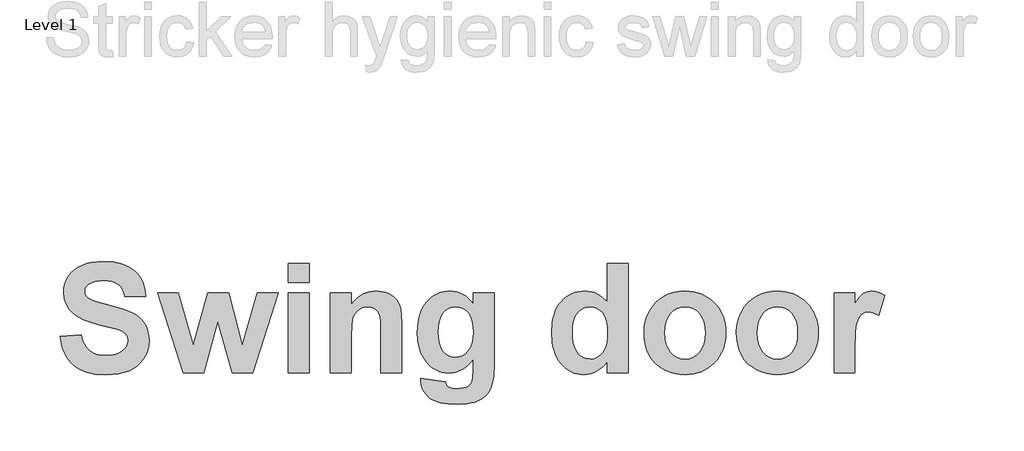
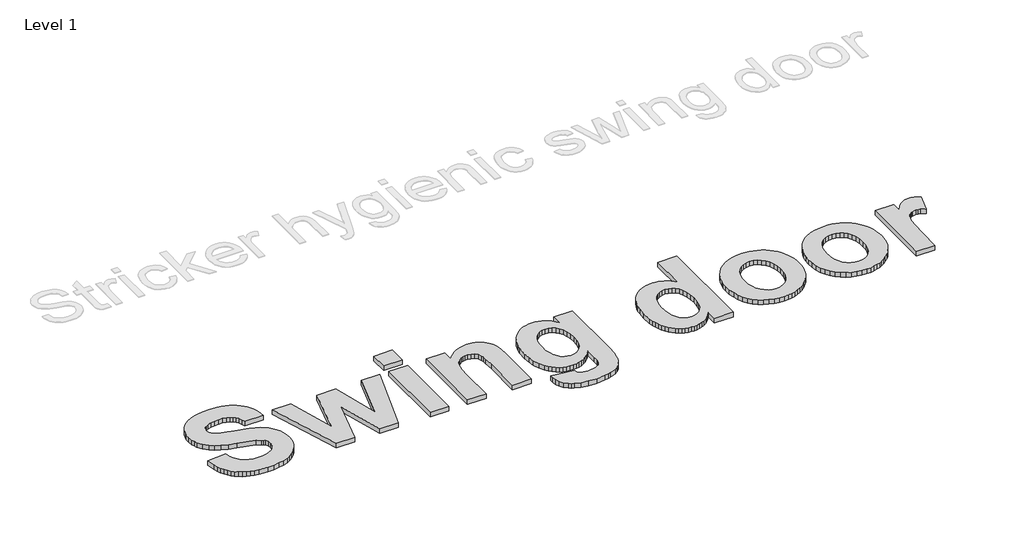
# One storey, part 19 of 20: 1 proxy.
"""IFC4 building model written with IfcOpenShell, lengths in millimetres."""

import ifcopenshell
import ifcopenshell.guid

model = None  # the IFC model being written
_history = None  # IfcOwnerHistory: only IFC2X3 demands one
_inside = {}  # id of a spatial element -> (the spatial element, [elements in it])
_under = {}  # id of a project, library or spatial element -> (it, [spatial elements below it])
_declared = {}  # id of a project -> (the project, [libraries it declares])
_typed = {}  # id of a type object -> (the type object, [elements of that type])
_made_of = {}  # id of a material, layer set ... -> (it, [elements and type objects made of it])


def new_model(schema):
    """Start an empty IFC model of exactly this schema.

    Asked for "IFC4X3", IfcOpenShell would pick the latest addendum, in which some entities
    have other attributes; the version numbers below select the first issue.
    IFC2X3 requires an IfcOwnerHistory on every rooted entity: one is made here for all.
    """
    global model, _history
    if schema == "IFC4X3":
        model = ifcopenshell.file(schema_version=(4, 3, 0, 0))
    else:
        model = ifcopenshell.file(schema=schema)
    _inside.clear()
    _under.clear()
    _declared.clear()
    _typed.clear()
    _made_of.clear()
    _history = None
    if model.schema == "IFC2X3":
        org = make("IfcOrganization", Name="unknown")
        user = make(
            "IfcPersonAndOrganization",
            ThePerson=make("IfcPerson", FamilyName="unknown"),
            TheOrganization=org,
        )
        app = make(
            "IfcApplication",
            ApplicationDeveloper=org,
            Version="unknown",
            ApplicationFullName="unknown",
            ApplicationIdentifier="unknown",
        )
        _history = make(
            "IfcOwnerHistory",
            OwningUser=user,
            OwningApplication=app,
            ChangeAction="ADDED",
            CreationDate=0,
        )
    return model


def make(cls, **values):
    """One entity of the class cls with the attributes given. An attribute that is None is left unset."""
    return model.create_entity(
        cls, **{name: value for name, value in values.items() if value is not None}
    )


def rooted(cls, **values):
    """An entity with a GlobalId (a new one), such as an element, a storey or a relation."""
    return make(cls, GlobalId=ifcopenshell.guid.new(), OwnerHistory=_history, **values)


def si_unit(unit_type, name, prefix=None):
    """IfcSIUnit, for example si_unit("LENGTHUNIT", "METRE", prefix="MILLI")."""
    return make("IfcSIUnit", UnitType=unit_type, Prefix=prefix, Name=name)


def assignment(units):
    """IfcUnitAssignment: the units of a project."""
    return None if units is None else make("IfcUnitAssignment", Units=units)


def point(xyz):
    """IfcCartesianPoint."""
    return None if xyz is None else make("IfcCartesianPoint", Coordinates=xyz)


def direction(xyz):
    """IfcDirection."""
    return None if xyz is None else make("IfcDirection", DirectionRatios=xyz)


def frame(location, z_axis=None, x_axis=None):
    """IfcAxis2Placement3D, a coordinate frame: its origin and axes. An axis left out is left unset."""
    return make(
        "IfcAxis2Placement3D",
        Location=point(location),
        Axis=direction(z_axis),
        RefDirection=direction(x_axis),
    )


def origin():
    """The frame at (0, 0, 0) with its axes left unset."""
    return frame((0.0, 0.0, 0.0))


def origin_with_axes():
    """The frame at (0, 0, 0) with the z axis (0, 0, 1) and the x axis (1, 0, 0) written out."""
    return frame((0.0, 0.0, 0.0), z_axis=(0.0, 0.0, 1.0), x_axis=(1.0, 0.0, 0.0))


def place(relative_to, where):
    """IfcLocalPlacement: puts the frame where relative to a parent placement (None: the world)."""
    return make(
        "IfcLocalPlacement", PlacementRelTo=relative_to, RelativePlacement=where
    )


def context(
    kind, dimensions, precision=None, world=None, true_north=None, identifier=None
):
    """IfcGeometricRepresentationContext, for example the 3D "Model" context."""
    return make(
        "IfcGeometricRepresentationContext",
        ContextIdentifier=identifier,
        ContextType=kind,
        CoordinateSpaceDimension=dimensions,
        Precision=precision,
        WorldCoordinateSystem=world,
        TrueNorth=true_north,
    )


def project(units=None, contexts=None):
    """IfcProject with its units and contexts."""
    return rooted(
        "IfcProject",
        Name="project",
        RepresentationContexts=contexts,
        UnitsInContext=assignment(units),
    )


def spatial(cls, under=None, at=None, **own):
    """A site, building, storey or space (cls), placed at a placement, below another one or the project."""
    s = rooted(cls, ObjectPlacement=at, **own)
    if under is not None:
        _under.setdefault(under.id(), (under, []))[1].append(s)
    return s


def polyline(points):
    """IfcPolyline through the points."""
    return make("IfcPolyline", Points=[point(p) for p in points])


def outline(outer, holes=None, kind="AREA"):
    """IfcArbitraryClosedProfileDef: a profile drawn as a closed curve; with holes, ...WithVoids."""
    if holes is None:
        return make("IfcArbitraryClosedProfileDef", ProfileType=kind, OuterCurve=outer)
    return make(
        "IfcArbitraryProfileDefWithVoids",
        ProfileType=kind,
        OuterCurve=outer,
        InnerCurves=holes,
    )


def extrude(swept, where, along, depth):
    """IfcExtrudedAreaSolid: the profile swept, set in the frame where, extruded along a direction by depth."""
    return make(
        "IfcExtrudedAreaSolid",
        SweptArea=swept,
        Position=where,
        ExtrudedDirection=direction(along),
        Depth=depth,
    )


def shape(context_of_items, identifier, shape_type, items):
    """IfcShapeRepresentation: the items that make up one representation, for example the "Body"."""
    return make(
        "IfcShapeRepresentation",
        ContextOfItems=context_of_items,
        RepresentationIdentifier=identifier,
        RepresentationType=shape_type,
        Items=items,
    )


def made_of(thing, what):
    """Note that an element or type object is made of a material, layer set ...; save() writes the relation."""
    if what is not None:
        _made_of.setdefault(what.id(), (what, []))[1].append(thing)
    return thing


def element(
    cls,
    number,
    at=None,
    inside=None,
    cuts=None,
    type_object=None,
    material=None,
    context=None,
    identifier="Body",
    shape_type=None,
    held_by="IfcProductDefinitionShape",
    body=None,
    shapes=None,
    **own,
):
    """One element of the class cls, such as IfcWall. Its Tag is "e" and its number.

    at: its placement. inside: the storey or other place that contains it. cuts: it is an
    opening in that element (IfcRelVoidsElement). A single representation is given by context,
    identifier, shape_type and body (its items); several are given by shapes. held_by: the class
    of the entity that holds the representations. save() writes the other relations.
    """
    e = rooted(cls, Tag="e%d" % number, ObjectPlacement=at, **own)
    if body is not None:
        shapes = [shape(context, identifier, shape_type, body)]
    if shapes is not None:
        e.Representation = make(held_by, Representations=shapes)
    if inside is not None:
        _inside.setdefault(inside.id(), (inside, []))[1].append(e)
    if cuts is not None:
        rooted(
            "IfcRelVoidsElement", RelatingBuildingElement=cuts, RelatedOpeningElement=e
        )
    if type_object is not None:
        _typed.setdefault(type_object.id(), (type_object, []))[1].append(e)
    return made_of(e, material)


def aggregate(whole, parts):
    """IfcRelAggregates: a whole, such as a stair, and the parts it consists of."""
    return rooted("IfcRelAggregates", RelatingObject=whole, RelatedObjects=parts)


def save(model, path):
    """Write the relations noted so far, then the file.

    IfcRelAggregates (storeys below a building ...), IfcRelContainedInSpatialStructure (elements
    in a storey), IfcRelDefinesByType, IfcRelAssociatesMaterial and IfcRelDeclares: one each for
    every whole, place, type object, material and project.
    """
    for whole, parts in _under.values():
        aggregate(whole, parts)
    for where, things in _inside.values():
        rooted(
            "IfcRelContainedInSpatialStructure",
            RelatedElements=things,
            RelatingStructure=where,
        )
    for kind, things in _typed.values():
        rooted("IfcRelDefinesByType", RelatedObjects=things, RelatingType=kind)
    for what, things in _made_of.values():
        rooted("IfcRelAssociatesMaterial", RelatedObjects=things, RelatingMaterial=what)
    for by, libraries in _declared.values():
        rooted("IfcRelDeclares", RelatingContext=by, RelatedDefinitions=libraries)
    model.write(path)


model = new_model("IFC4")

# Units and contexts
model_context = context("Model", 3, world=origin())
ifc_project = project(units=[si_unit("LENGTHUNIT", "METRE", prefix="MILLI")], contexts=[model_context])

# Site, building, storey
site = spatial("IfcSite", under=ifc_project)
building = spatial("IfcBuilding", under=site)
storey = spatial("IfcBuildingStorey", under=building, Name="Level 1", Elevation=0.0)

# Proxy
placement = place(None, origin())
element("IfcBuildingElementProxy", 1, Name="1000", ObjectType="1000", at=placement, inside=storey, context=model_context, shape_type="SweptSolid", body=[
    extrude(outline(polyline([(496.7956098, 88703.8278185), (691.1307336, 88720.0224121), (702.897118, 88673.2415449), (719.4712725, 88633.1029915), (740.8531969, 88599.6067519), (767.0428913, 88572.7528261), (798.1194309, 88552.1616533), (834.1618908, 88537.4536728), (875.170271, 88528.6288844), (921.1445715, 88525.6872883), (969.4594969, 88528.2888612), (1011.4167791, 88536.09358), (1047.0164181, 88549.1014445), (1076.2584138, 88567.3124548), (1099.0636912, 88589.0027724), (1115.3531751, 88612.4485586), (1125.1268654, 88637.6498135), (1128.3847621, 88664.606537), (1122.9760209, 88697.6599557), (1106.7497972, 88725.4627834), (1093.900083, 88737.6324512), (1076.9859053, 88748.9639223), (1030.9641597, 88769.1122741), (862.4391695, 88812.382204), (784.218017, 88833.4952729), (718.5856306, 88857.107117), (665.5420104, 88883.2177362), (625.0871563, 88911.8271307), (583.1298742, 88956.1250377), (553.1603869, 89005.0093043), (542.6710663, 89031.1713224), (535.1786945, 89058.4799304), (529.1847971, 89116.536916), (531.9366128, 89154.7460354), (540.1920599, 89191.6899522), (553.9511385, 89227.3686663), (573.2138486, 89261.7821778), (597.6638894, 89293.5545789), (626.9849603, 89321.3099615), (661.1770613, 89345.0483259), (700.2401925, 89364.7696718), (743.8738682, 89380.268404), (791.7776027, 89391.338927), (843.9513961, 89397.9812408), (900.3952484, 89400.1953454), (990.2483576, 89394.675899), (1030.7328648, 89387.7765909), (1068.2560072, 89378.1175596), (1102.8177846, 89365.698805), (1134.4181972, 89350.5203272), (1163.0572448, 89332.5821262), (1188.7349275, 89311.8842019), (1211.4947367, 89288.8851904), (1231.3801636, 89264.0437275), (1248.3912084, 89237.3598133), (1262.5278709, 89208.8334478), (1273.7901511, 89178.464631), (1282.1780492, 89146.2533628), (1290.3306986, 89076.3034724), (1095.9955748, 89076.3034724), (1087.2103241, 89112.4171), (1074.5187602, 89143.0745412), (1057.9208832, 89168.275796), (1037.4166931, 89188.0208646), (1012.1521781, 89202.910718), (981.2733265, 89213.5463276), (944.7801381, 89219.9276934), (902.6726131, 89222.0548153), (858.7700819, 89219.7932656), (819.9283612, 89213.0086165), (786.147451, 89201.700868), (757.4273513, 89185.8700201), (742.5928505, 89173.2496239), (731.9967785, 89158.6681636), (725.6391353, 89142.1256392), (723.5199209, 89123.6220508), (725.4493549, 89106.43111), (731.2376569, 89090.537002), (740.884827, 89075.9397267), (754.390865, 89062.639284), (780.9996578, 89046.4367829), (821.6047547, 89029.9654262), (876.2061556, 89013.2252139), (944.8038607, 88996.216146), (1076.2900439, 88961.1067731), (1127.2539873, 88942.9353003), (1168.3651652, 88924.3526367), (1202.5888963, 88903.8326316), (1232.8904993, 88879.8491342), (1259.2699741, 88852.4021447), (1281.7273208, 88821.491663), (1299.661568, 88786.9358162), (1312.4717446, 88748.5527314), (1320.1578506, 88706.3424087), (1322.7198859, 88660.3048481), (1319.6913071, 88617.4777391), (1310.6055708, 88576.042353), (1295.4626768, 88535.9986898), (1274.2626252, 88497.3467494), (1247.5194047, 88461.8261856), (1215.7470037, 88431.176652), (1178.9454222, 88405.3981484), (1137.1146603, 88384.4906749), (1090.041215, 88368.3277114), (1037.5115833, 88356.7827374), (979.5257653, 88349.855753), (916.083761, 88347.5467582), (825.2738423, 88353.2322625), (784.0677742, 88360.3391429), (745.6609669, 88370.2887754), (710.0534204, 88383.0811601), (677.2451347, 88398.716297), (647.2361099, 88417.194186), (620.0263458, 88438.5148272), (595.5169987, 88462.5596078), (573.6092244, 88489.209915), (554.303023, 88518.465749), (537.5983946, 88550.3271095), (523.495339, 88584.7939968), (511.9938564, 88621.8664107), (496.7956098, 88703.8278185)])), origin_with_axes(), (0.0, 0.0, 1.0), 50.0),
    extrude(outline(polyline([(1640.0327053, 88363.7413518), (1403.6928542, 89108.6926597), (1595.7506133, 89108.6926597), (1735.682024, 88620.5774855), (1866.5039758, 89108.6926597), (2061.3451807, 89108.6926597), (2189.1306462, 88620.5774855), (2329.568138, 89108.6926597), (2521.119816, 89108.6926597), (2285.286046, 88363.7413518), (2094.4934896, 88363.7413518), (1962.4063351, 88842.7470671), (1833.6087075, 88363.7413518), (1640.0327053, 88363.7413518)])), origin_with_axes(), (0.0, 0.0, 1.0), 50.0),
    extrude(outline(polyline([(2618.2873779, 89205.8602216), (2618.2873779, 89384.0007518), (2812.6225017, 89384.0007518), (2812.6225017, 89205.8602216), (2618.2873779, 89205.8602216)])), origin_with_axes(), (0.0, 0.0, 1.0), 50.0),
    extrude(outline(polyline([(2618.2873779, 88363.7413518), (2618.2873779, 89108.6926597), (2812.6225017, 89108.6926597), (2812.6225017, 88363.7413518), (2618.2873779, 88363.7413518)])), origin_with_axes(), (0.0, 0.0, 1.0), 50.0),
    extrude(outline(polyline([(3670.9359652, 88363.7413518), (3476.6008414, 88363.7413518), (3476.6008414, 88746.5916673), (3473.5643551, 88846.7957156), (3469.7687472, 88880.7664061), (3464.4548962, 88903.9828744), (3448.4500829, 88935.6762002), (3424.7275336, 88959.3987495), (3394.4259306, 88974.2016203), (3358.6839564, 88979.1359105), (3334.5264937, 88977.3725344), (3311.6500487, 88972.0824059), (3290.0546213, 88963.2655251), (3269.7402116, 88950.9218919), (3251.6161839, 88935.6603852), (3236.5919027, 88918.0898837), (3224.6673679, 88898.2103874), (3215.8425796, 88876.0218963), (3209.4770289, 88847.73671), (3204.9302069, 88809.5671282), (3201.2927493, 88703.574778), (3201.2927493, 88363.7413518), (3006.9576255, 88363.7413518), (3006.9576255, 89108.6926597), (3201.2927493, 89108.6926597), (3201.2927493, 89001.4034768), (3225.1299576, 89030.3449869), (3250.4616865, 89055.4276291), (3277.287936, 89076.6514032), (3305.6087061, 89094.0163092), (3335.4239968, 89107.5223473), (3366.7338081, 89117.1695174), (3399.53814, 89122.9578194), (3433.8369925, 89124.8872534), (3492.9219553, 89119.0040612), (3520.4717426, 89111.6500709), (3546.693067, 89101.3544845), (3591.6077604, 89074.5954489), (3609.4154874, 89058.7962311), (3624.1234679, 89041.3838799), (3646.4226643, 89002.5105291), (3660.6878239, 88958.7661482), (3668.3739299, 88902.5595214), (3670.9359652, 88826.299433), (3670.9359652, 88363.7413518)])), origin_with_axes(), (0.0, 0.0, 1.0), 50.0),
    extrude(outline(polyline([(3849.0764953, 88315.1575709), (4075.8008065, 88282.7683836), (4084.4674445, 88254.1748042), (4099.8396564, 88236.2089268), (4114.8481226, 88228.2381503), (4133.5573065, 88222.5447384), (4182.0778273, 88217.990009), (4215.7638473, 88219.429177), (4244.9583979, 88223.7466809), (4269.6614793, 88230.9425209), (4289.8730913, 88241.0166968), (4311.0019752, 88261.1966788), (4326.310927, 88290.8656804), (4332.7634604, 88325.785273), (4334.9143049, 88381.4541886), (4334.9143049, 88490.0085742), (4310.3654201, 88460.414694), (4284.7964657, 88434.7666644), (4258.2074417, 88413.0644856), (4230.5983481, 88395.3081574), (4201.9691849, 88381.49768), (4172.319952, 88371.6330532), (4141.6506495, 88365.7142772), (4109.9612774, 88363.7413518), (4074.9665635, 88365.7221847), (4041.8459309, 88371.6646833), (4010.5993797, 88381.5688476), (3981.2269099, 88395.4346777), (3953.7285216, 88413.2621735), (3928.1042146, 88435.051335), (3904.353989, 88460.8021623), (3882.4778448, 88490.5146553), (3853.6944849, 88543.6847957), (3833.1349422, 88602.991169), (3820.7992166, 88668.4337749), (3816.687308, 88740.0126137), (3822.0723267, 88828.1102542), (3828.8036001, 88868.013559), (3838.2273828, 88905.1531868), (3850.3436749, 88939.5291376), (3865.1524763, 88971.1414114), (3882.653787, 88999.9900082), (3902.8476071, 89026.0749281), (3948.5609596, 89069.3053204), (3973.392538, 89086.2886888), (3999.540718, 89100.1841721), (4027.0054994, 89110.9917701), (4055.7868824, 89118.7114831), (4085.8848668, 89123.3433108), (4117.2994527, 89124.8872534), (4149.5937498, 89123.0566633), (4180.4330639, 89117.5648932), (4209.8173949, 89108.4119429), (4237.746743, 89095.5978125), (4264.221108, 89079.122502), (4289.2404899, 89058.9860115), (4312.8048889, 89035.1883408), (4334.9143049, 89007.72949), (4334.9143049, 89108.6926597), (4529.2494287, 89108.6926597), (4529.2494287, 88446.9916848), (4523.9672077, 88333.0918182), (4517.3644315, 88288.4538879), (4508.1205448, 88252.0239597), (4496.4964956, 88221.4455937), (4482.753232, 88194.3623499), (4466.8907541, 88170.7742284), (4448.9090617, 88150.6812291), (4428.2704438, 88133.3242306), (4404.4371893, 88117.9441111), (4347.1867704, 88093.1145095), (4313.2556173, 88083.981328), (4275.1018506, 88077.457627), (4186.1264757, 88072.2386661), (4100.8360035, 88076.1291642), (4028.925049, 88087.8006585), (3970.3936124, 88107.2531489), (3946.1452133, 88119.8972677), (3925.2416936, 88134.4866355), (3891.5873037, 88167.6982045), (3867.5484537, 88205.0849422), (3853.1251438, 88246.6468485), (3848.3173738, 88292.3839236), (3849.0764953, 88315.1575709)]), holes=[polyline([(4011.0224319, 88747.3507889), (4013.8296002, 88689.7524392), (4022.2511052, 88640.4411668), (4036.2869468, 88599.4169715), (4055.9371252, 88566.6798535), (4079.7150271, 88541.6604715), (4106.1340395, 88523.7894844), (4135.1941624, 88513.0668921), (4166.8953957, 88509.4926947), (4200.8265487, 88513.1617823), (4232.0217011, 88524.1690452), (4260.4808527, 88542.5144833), (4286.2040036, 88568.1980967), (4307.5147604, 88601.07755), (4322.7367295, 88641.010508), (4331.869911, 88687.9969706), (4334.9143049, 88742.0369379), (4331.9964313, 88798.3779925), (4323.2428106, 88846.9538659), (4308.6534428, 88887.7645582), (4288.2283278, 88920.8100693), (4263.3433736, 88946.3276249), (4235.374488, 88964.5544502), (4204.321671, 88975.4905455), (4170.1849226, 88979.1359105), (4137.0445212, 88975.5617131), (4106.9564212, 88964.8391208), (4079.9206225, 88946.9681337), (4055.9371252, 88921.9487517), (4036.2869468, 88889.5911945), (4022.2511052, 88849.7056816), (4013.8296002, 88802.2922131), (4011.0224319, 88747.3507889)])]), origin_with_axes(), (0.0, 0.0, 1.0), 50.0),
    extrude(outline(polyline([(5776.2331397, 88363.7413518), (5581.8980159, 88363.7413518), (5581.8980159, 88471.0305348), (5559.1639062, 88441.7806315), (5534.4845474, 88416.5319315), (5507.8599396, 88395.2844349), (5479.2900827, 88378.0381415), (5449.6922487, 88364.6981613), (5419.9837095, 88355.169604), (5390.164465, 88349.4524696), (5360.2345153, 88347.5467582), (5330.2274674, 88349.1598915), (5301.3156104, 88353.9992916), (5273.4989445, 88362.0649584), (5246.7774696, 88373.3568918), (5221.1511857, 88387.875092), (5196.6200929, 88405.6195589), (5150.8434802, 88450.7872927), (5130.4124347, 88477.8744902), (5112.7055285, 88507.5158156), (5097.7227617, 88539.7112687), (5085.4641344, 88574.4608497), (5075.9296465, 88611.7645584), (5069.1192979, 88651.622395), (5063.6710191, 88739.0004516), (5069.1113904, 88827.8493062), (5075.9118545, 88868.0273972), (5085.4325043, 88905.3745973), (5097.6733398, 88939.8909065), (5112.6343608, 88971.5763248), (5130.3155676, 89000.4308523), (5150.71696, 89026.4544889), (5173.1980292, 89049.524668), (5197.1182664, 89069.5188233), (5222.4776716, 89086.4369547), (5249.2762448, 89100.2790623), (5277.5139859, 89111.0451459), (5307.1908951, 89118.7352056), (5338.3069723, 89123.3492414), (5370.8622174, 89124.8872534), (5400.8396122, 89123.2938888), (5429.7890299, 89118.5137951), (5457.7104704, 89110.5469723), (5484.6039337, 89099.3934204), (5510.46942, 89085.0531394), (5535.3069291, 89067.5261292), (5581.8980159, 89022.9119215), (5581.8980159, 89384.0007518), (5776.2331397, 89384.0007518), (5776.2331397, 88363.7413518)]), holes=[polyline([(5258.0061429, 88750.3872752), (5260.0304671, 88693.2633765), (5266.1034397, 88644.6163355), (5276.2250608, 88604.446152), (5290.3953302, 88572.7528261), (5316.1263887, 88537.9913839), (5346.5070668, 88513.1617823), (5381.5373646, 88498.2640214), (5421.217282, 88493.298101), (5453.4799491, 88497.0225413), (5483.2122109, 88508.195862), (5510.4140674, 88526.8180632), (5535.0855186, 88552.8891449), (5555.5659862, 88586.3616619), (5570.1948916, 88627.1881692), (5578.9722348, 88675.3686669), (5581.8980159, 88730.9031547), (5579.0592175, 88792.3208349), (5570.5428223, 88844.4867208), (5556.3488303, 88887.4008124), (5536.4772415, 88921.0631099), (5512.1616285, 88946.4699602), (5484.6355638, 88964.6177104), (5453.8990474, 88975.5063605), (5419.9520794, 88979.1359105), (5386.9302908, 88975.5458981), (5356.691948, 88964.7758607), (5329.2370509, 88946.8257984), (5304.5655997, 88921.6957112), (5284.1958373, 88889.4488592), (5269.6460071, 88850.1485025), (5260.916109, 88803.7946412), (5258.0061429, 88750.3872752)])]), origin_with_axes(), (0.0, 0.0, 1.0), 50.0),
    extrude(outline(polyline([(5921.9844826, 88746.8447079), (5924.9814313, 88795.4205813), (5933.9722775, 88843.2215181), (5948.9570211, 88890.2475183), (5969.9356622, 88936.4985819), (5996.4021197, 88979.6498991), (6027.8503125, 89017.37666), (6064.2802407, 89049.6788646), (6105.6919043, 89076.556513), (6150.8754532, 89097.7012119), (6198.6210374, 89112.8045683), (6248.9286569, 89121.8665821), (6301.7983118, 89124.8872534), (6342.7295937, 89123.1752761), (6381.7670254, 89118.0393442), (6418.910607, 89109.4794576), (6454.1603384, 89097.4956165), (6487.5162195, 89082.0878207), (6518.9782505, 89063.2560703), (6548.5464313, 89041.0003653), (6576.220762, 89015.3207057), (6601.2777047, 88987.0236582), (6622.9937217, 88956.9157894), (6641.368813, 88924.9970993), (6656.4029786, 88891.267588), (6668.0962185, 88855.7272554), (6676.4485327, 88818.3761015), (6681.4599213, 88779.2141264), (6683.1303841, 88738.24133), (6681.4421294, 88696.9502561), (6676.3773651, 88657.4660497), (6667.9360913, 88619.7887107), (6656.118308, 88583.9182393), (6640.9240152, 88549.8546354), (6622.3532128, 88517.597899), (6600.405901, 88487.1480301), (6575.0820796, 88458.5050287), (6547.2001767, 88432.4991841), (6517.5786201, 88409.9607854), (6486.21741, 88390.8898326), (6453.1165462, 88375.2863258), (6418.2760288, 88363.150265), (6381.6958578, 88354.4816501), (6343.3760332, 88349.2804812), (6303.3165549, 88347.5467582), (6253.1749932, 88350.4330017), (6204.219559, 88359.0917322), (6156.4502523, 88373.5229497), (6109.867073, 88393.7266541), (6066.6287731, 88419.5130652), (6028.8941047, 88450.6924025), (5996.6630677, 88487.264666), (5969.9356622, 88529.2298557), (5948.9570211, 88576.3270236), (5933.9722775, 88628.2952215), (5924.9814313, 88685.1344496), (5921.9844826, 88746.8447079)]), holes=[polyline([(6116.3196064, 88736.2170058), (6119.6803008, 88680.8248532), (6129.7623843, 88632.3122399), (6146.5658567, 88590.6791659), (6170.0907181, 88555.9256312), (6198.5498697, 88528.5260867), (6230.1562129, 88508.9549836), (6264.9097476, 88497.2123217), (6302.8104739, 88493.298101), (6340.6953851, 88497.2123217), (6375.4014747, 88508.9549836), (6406.9287427, 88528.5260867), (6435.2771891, 88555.9256312), (6458.6913453, 88590.7740561), (6475.4157425, 88632.6918007), (6485.4503809, 88681.678865), (6488.7952603, 88737.7352489), (6485.4503809, 88792.4631702), (6475.4157425, 88840.5013325), (6458.6913453, 88881.8497359), (6435.2771891, 88916.5083804), (6406.9287427, 88943.9079248), (6375.4014747, 88963.479028), (6340.6953851, 88975.2216899), (6302.8104739, 88979.1359105), (6264.9097476, 88975.2216899), (6230.1562129, 88963.479028), (6198.5498697, 88943.9079248), (6170.0907181, 88916.5083804), (6146.5658567, 88881.7548457), (6129.7623843, 88840.1217717), (6119.6803008, 88791.6091584), (6116.3196064, 88736.2170058)])]), origin_with_axes(), (0.0, 0.0, 1.0), 50.0),
    extrude(outline(polyline([(6780.297946, 88746.8447079), (6783.2948947, 88795.4205813), (6792.2857409, 88843.2215181), (6807.2704846, 88890.2475183), (6828.2491257, 88936.4985819), (6854.7155831, 88979.6498991), (6886.163776, 89017.37666), (6922.5937042, 89049.6788646), (6964.0053677, 89076.556513), (7009.1889166, 89097.7012119), (7056.9345008, 89112.8045683), (7107.2421204, 89121.8665821), (7160.1117752, 89124.8872534), (7201.0430571, 89123.1752761), (7240.0804889, 89118.0393442), (7277.2240704, 89109.4794576), (7312.4738018, 89097.4956165), (7345.829683, 89082.0878207), (7377.291714, 89063.2560703), (7406.8598948, 89041.0003653), (7434.5342254, 89015.3207057), (7459.5911681, 88987.0236582), (7481.3071851, 88956.9157894), (7499.6822764, 88924.9970993), (7514.716442, 88891.267588), (7526.409682, 88855.7272554), (7534.7619962, 88818.3761015), (7539.7733847, 88779.2141264), (7541.4438476, 88738.24133), (7539.7555928, 88696.9502561), (7534.6908285, 88657.4660497), (7526.2495548, 88619.7887107), (7514.4317714, 88583.9182393), (7499.2374786, 88549.8546354), (7480.6666763, 88517.597899), (7458.7193644, 88487.1480301), (7433.3955431, 88458.5050287), (7405.5136401, 88432.4991841), (7375.8920836, 88409.9607854), (7344.5308734, 88390.8898326), (7311.4300096, 88375.2863258), (7276.5894922, 88363.150265), (7240.0093212, 88354.4816501), (7201.6894966, 88349.2804812), (7161.6300184, 88347.5467582), (7111.4884567, 88350.4330017), (7062.5330225, 88359.0917322), (7014.7637157, 88373.5229497), (6968.1805364, 88393.7266541), (6924.9422366, 88419.5130652), (6887.2075682, 88450.6924025), (6854.9765312, 88487.264666), (6828.2491257, 88529.2298557), (6807.2704846, 88576.3270236), (6792.2857409, 88628.2952215), (6783.2948947, 88685.1344496), (6780.297946, 88746.8447079)]), holes=[polyline([(6974.6330698, 88736.2170058), (6977.9937643, 88680.8248532), (6988.0758478, 88632.3122399), (7004.8793202, 88590.6791659), (7028.4041815, 88555.9256312), (7056.8633332, 88528.5260867), (7088.4696764, 88508.9549836), (7123.2232111, 88497.2123217), (7161.1239373, 88493.298101), (7199.0088485, 88497.2123217), (7233.7149382, 88508.9549836), (7265.2422062, 88528.5260867), (7293.5906526, 88555.9256312), (7317.0048087, 88590.7740561), (7333.729206, 88632.6918007), (7343.7638443, 88681.678865), (7347.1087238, 88737.7352489), (7343.7638443, 88792.4631702), (7333.729206, 88840.5013325), (7317.0048087, 88881.8497359), (7293.5906526, 88916.5083804), (7265.2422062, 88943.9079248), (7233.7149382, 88963.479028), (7199.0088485, 88975.2216899), (7161.1239373, 88979.1359105), (7123.2232111, 88975.2216899), (7088.4696764, 88963.479028), (7056.8633332, 88943.9079248), (7028.4041815, 88916.5083804), (7004.8793202, 88881.7548457), (6988.0758478, 88840.1217717), (6977.9937643, 88791.6091584), (6974.6330698, 88736.2170058)])]), origin_with_axes(), (0.0, 0.0, 1.0), 50.0),
    extrude(outline(polyline([(7881.5303142, 88363.7413518), (7687.1951904, 88363.7413518), (7687.1951904, 89108.6926597), (7881.5303142, 89108.6926597), (7881.5303142, 89004.9460442), (7922.5861395, 89065.9604409), (7941.4534737, 89087.0023422), (7959.2137556, 89101.7340453), (7996.0311521, 89119.0989514), (8037.6563186, 89124.8872534), (8068.2584072, 89122.3252181), (8098.3227847, 89114.6391121), (8127.849451, 89101.8289355), (8156.8384063, 89083.8946882), (8100.1573285, 88898.9220639), (8053.3448312, 88922.6446132), (8031.2670454, 88928.5752505), (8010.0749013, 88930.5521296), (7972.7197937, 88925.0168681), (7956.3907723, 88918.0977912), (7941.6274391, 88908.4110836), (7928.3902566, 88895.1185485), (7916.6396872, 88877.3819891), (7897.5983876, 88828.5767977), (7890.5686055, 88791.8226613), (7885.5473326, 88739.2534921), (7881.5303142, 88586.6700551), (7881.5303142, 88363.7413518)])), origin_with_axes(), (0.0, 0.0, 1.0), 50.0),
])

save(model, "model.ifc")
